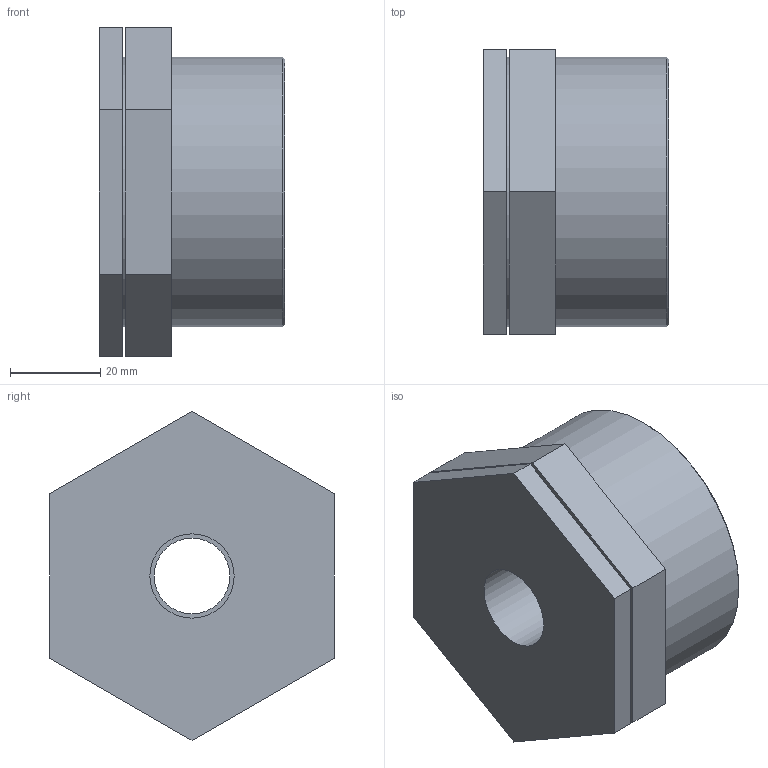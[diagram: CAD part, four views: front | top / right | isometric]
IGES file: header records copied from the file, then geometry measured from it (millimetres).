
Global section: file name: 050207020005_0502070200050A.ipt; native system: Autodesk Inventor 2015; preprocessor: unknown; author: KIM; date: 20170618.093136; units: millimetre
Bounding box: 41 x 63 x 72.75 mm (x, y, z)
Volume: 53023 mm3; surface area: 22567.1 mm2
Topology: 1 solids, 1 shells, 27 faces, 64 edges, 44 vertices
Faces by surface type: plane 19, revolution 4, cylinder 3, cone 1
Full cylindrical faces by diameter (mm): 22.357 x1, 59.614 x2
